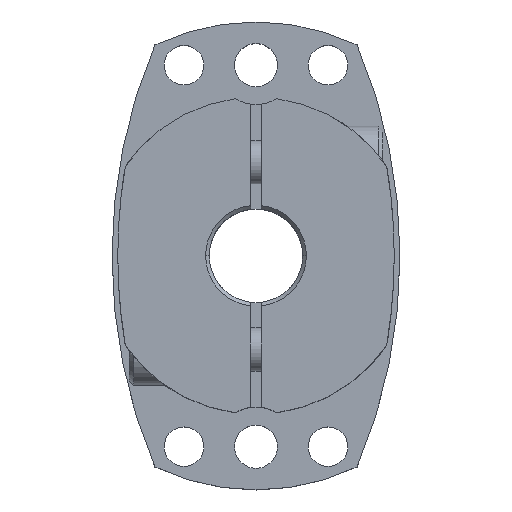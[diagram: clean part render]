
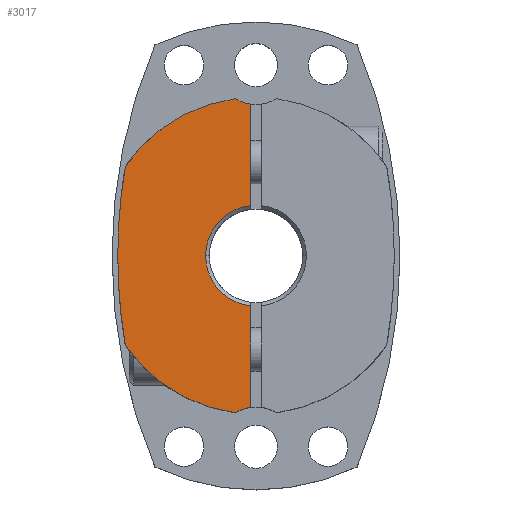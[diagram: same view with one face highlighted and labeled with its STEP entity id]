
A CAD part, top view. The second image highlights one B-rep face of the part: STEP entity #3017.
In plain terms, the highlighted planar face has unit normal (0, 0, 1).
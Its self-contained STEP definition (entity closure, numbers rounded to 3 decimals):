
#412=CARTESIAN_POINT('',(-7.,0.,21.0));
#413=VERTEX_POINT('',#412);
#421=CARTESIAN_POINT('',(-0.75,6.96,21.0));
#422=VERTEX_POINT('',#421);
#436=CARTESIAN_POINT('',(0.,0.0,21.0));
#437=DIRECTION('',(0.0,0.0,1.0));
#438=DIRECTION('',(-1.0,0.0,0.0));
#439=AXIS2_PLACEMENT_3D('',#436,#437,#438);
#440=CIRCLE('',#439,7.0);
#441=EDGE_CURVE('',#422,#413,#440,.T.);
#673=CARTESIAN_POINT('',(-19.2,0.,21.0));
#674=VERTEX_POINT('',#673);
#683=CARTESIAN_POINT('',(-18.151,12.431,21.0));
#684=VERTEX_POINT('',#683);
#685=CARTESIAN_POINT('',(55.,0.,21.0));
#686=DIRECTION('',(0.0,0.0,-1.0));
#687=DIRECTION('',(1.0,0.0,0.0));
#688=AXIS2_PLACEMENT_3D('',#685,#686,#687);
#689=CIRCLE('',#688,74.2);
#690=EDGE_CURVE('',#674,#684,#689,.T.);
#1939=CARTESIAN_POINT('',(-2.875,-21.811,21.0));
#1940=VERTEX_POINT('',#1939);
#1947=CARTESIAN_POINT('',(-18.151,-12.431,21.0));
#1948=VERTEX_POINT('',#1947);
#1949=CARTESIAN_POINT('',(0.,0.,21.0));
#1950=DIRECTION('',(0.0,0.0,-1.0));
#1951=DIRECTION('',(1.0,0.0,0.0));
#1952=AXIS2_PLACEMENT_3D('',#1949,#1950,#1951);
#1953=CIRCLE('',#1952,22.);
#1954=EDGE_CURVE('',#1940,#1948,#1953,.T.);
#2563=CARTESIAN_POINT('',(55.,0.,21.0));
#2564=DIRECTION('',(0.0,0.0,-1.0));
#2565=DIRECTION('',(1.0,0.0,0.0));
#2566=AXIS2_PLACEMENT_3D('',#2563,#2564,#2565);
#2567=CIRCLE('',#2566,74.2);
#2568=EDGE_CURVE('',#1948,#674,#2567,.T.);
#2701=CARTESIAN_POINT('',(-2.875,21.811,21.0));
#2702=VERTEX_POINT('',#2701);
#2711=CARTESIAN_POINT('',(-0.75,21.051,21.0));
#2712=VERTEX_POINT('',#2711);
#2713=CARTESIAN_POINT('',(0.,26.5,21.0));
#2714=DIRECTION('',(0.0,0.0,-1.0));
#2715=DIRECTION('',(1.0,0.0,0.0));
#2716=AXIS2_PLACEMENT_3D('',#2713,#2714,#2715);
#2717=CIRCLE('',#2716,5.5);
#2718=EDGE_CURVE('',#2712,#2702,#2717,.T.);
#2860=CARTESIAN_POINT('',(-0.75,-21.051,21.0));
#2861=VERTEX_POINT('',#2860);
#2870=CARTESIAN_POINT('',(0.,-26.5,21.0));
#2871=DIRECTION('',(0.0,0.0,-1.0));
#2872=DIRECTION('',(1.0,0.0,0.0));
#2873=AXIS2_PLACEMENT_3D('',#2870,#2871,#2872);
#2874=CIRCLE('',#2873,5.5);
#2875=EDGE_CURVE('',#1940,#2861,#2874,.T.);
#2960=CARTESIAN_POINT('',(-0.75,6.96,21.0));
#2961=DIRECTION('',(0.0,1.0,0.0));
#2962=VECTOR('',#2961,14.092);
#2963=LINE('',#2960,#2962);
#2964=EDGE_CURVE('',#422,#2712,#2963,.T.);
#2981=CARTESIAN_POINT('',(0.,0.,21.0));
#2982=DIRECTION('',(0.0,0.0,1.0));
#2983=DIRECTION('',(1.0,0.0,0.0));
#2984=AXIS2_PLACEMENT_3D('',#2981,#2982,#2983);
#2985=PLANE('',#2984);
#2986=ORIENTED_EDGE('',*,*,#2718,.T.);
#2987=CARTESIAN_POINT('',(0.,0.,21.0));
#2988=DIRECTION('',(0.0,0.0,-1.0));
#2989=DIRECTION('',(1.0,0.0,0.0));
#2990=AXIS2_PLACEMENT_3D('',#2987,#2988,#2989);
#2991=CIRCLE('',#2990,22.);
#2992=EDGE_CURVE('',#684,#2702,#2991,.T.);
#2993=ORIENTED_EDGE('',*,*,#2992,.F.);
#2994=ORIENTED_EDGE('',*,*,#690,.F.);
#2995=ORIENTED_EDGE('',*,*,#2568,.F.);
#2996=ORIENTED_EDGE('',*,*,#1954,.F.);
#2997=ORIENTED_EDGE('',*,*,#2875,.T.);
#2998=CARTESIAN_POINT('',(-0.75,-6.96,21.0));
#2999=VERTEX_POINT('',#2998);
#3000=CARTESIAN_POINT('',(-0.75,-21.051,21.0));
#3001=DIRECTION('',(0.0,1.0,0.0));
#3002=VECTOR('',#3001,14.092);
#3003=LINE('',#3000,#3002);
#3004=EDGE_CURVE('',#2861,#2999,#3003,.T.);
#3005=ORIENTED_EDGE('',*,*,#3004,.T.);
#3006=CARTESIAN_POINT('',(0.,0.0,21.0));
#3007=DIRECTION('',(0.0,0.0,1.0));
#3008=DIRECTION('',(-1.0,0.0,0.0));
#3009=AXIS2_PLACEMENT_3D('',#3006,#3007,#3008);
#3010=CIRCLE('',#3009,7.0);
#3011=EDGE_CURVE('',#413,#2999,#3010,.T.);
#3012=ORIENTED_EDGE('',*,*,#3011,.F.);
#3013=ORIENTED_EDGE('',*,*,#441,.F.);
#3014=ORIENTED_EDGE('',*,*,#2964,.T.);
#3015=EDGE_LOOP('',(#2986,#2993,#2994,#2995,#2996,#2997,#3005,#3012,#3013,#3014));
#3016=FACE_OUTER_BOUND('',#3015,.T.);
#3017=ADVANCED_FACE('',(#3016),#2985,.T.);
